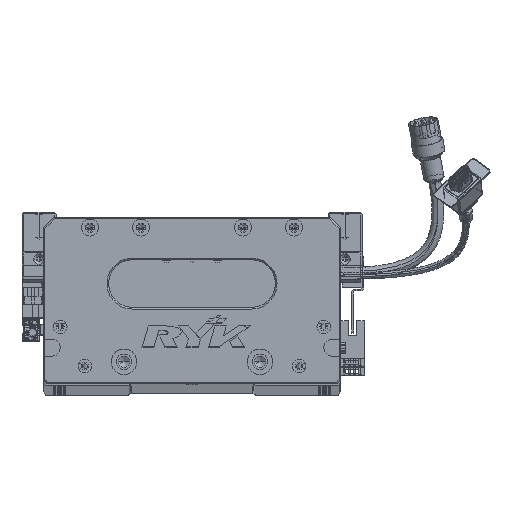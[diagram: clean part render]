
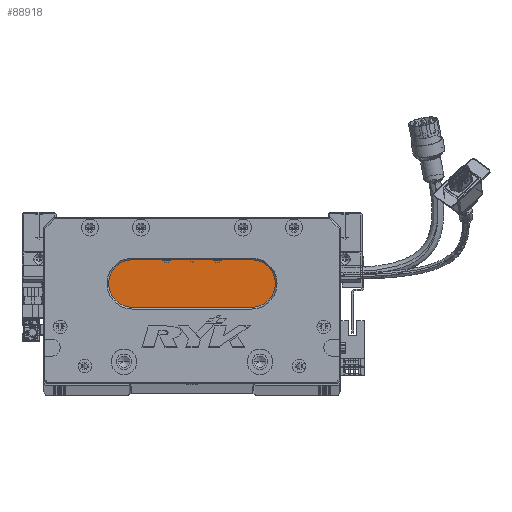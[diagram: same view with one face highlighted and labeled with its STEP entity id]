
A CAD part, top view. The second image highlights one B-rep face of the part: STEP entity #88918.
In plain terms, the highlighted planar face has unit normal (0, 0, 1) as drawn and (0, 0, -1) by its records, which use the part's own axes.
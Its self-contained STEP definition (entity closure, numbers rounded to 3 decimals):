
#2054 = LINE ( 'NONE', #21584, #115854 ) ;
#5575 = CARTESIAN_POINT ( 'NONE',  ( 122.5, 59., 18. ) ) ;
#6068 = PLANE ( 'NONE',  #24456 ) ;
#6151 = DIRECTION ( 'NONE',  ( -1., 0., 0. ) ) ;
#10908 = VERTEX_POINT ( 'NONE', #92158 ) ;
#16124 = DIRECTION ( 'NONE',  ( 0., 0., -1. ) ) ;
#16901 = EDGE_CURVE ( 'NONE', #10908, #135772, #2054, .T. ) ;
#17025 = EDGE_CURVE ( 'NONE', #135772, #79524, #79412, .T. ) ;
#21584 = CARTESIAN_POINT ( 'NONE',  ( 122.5, 45., 18. ) ) ;
#23618 = CARTESIAN_POINT ( 'NONE',  ( 122.5, 73., 18. ) ) ;
#24217 = EDGE_CURVE ( 'NONE', #79524, #92881, #113940, .T. ) ;
#24456 = AXIS2_PLACEMENT_3D ( 'NONE', #5575, #16124, #81173 ) ;
#26074 = LINE ( 'NONE', #23618, #103629 ) ;
#31982 = AXIS2_PLACEMENT_3D ( 'NONE', #81744, #48016, #6151 ) ;
#33850 = CARTESIAN_POINT ( 'NONE',  ( 122.5, 73., 18. ) ) ;
#48016 = DIRECTION ( 'NONE',  ( 0., 0., -1. ) ) ;
#55325 = CARTESIAN_POINT ( 'NONE',  ( 52.5, 59., 18. ) ) ;
#57691 = DIRECTION ( 'NONE',  ( -1., 0., 0. ) ) ;
#63066 = EDGE_LOOP ( 'NONE', ( #76934, #96353, #111626, #128895, #98558 ) ) ;
#66394 = DIRECTION ( 'NONE',  ( 0., 0., -1. ) ) ;
#67349 = DIRECTION ( 'NONE',  ( -1., 0., 0. ) ) ;
#67499 = DIRECTION ( 'NONE',  ( 1., 0., 0. ) ) ;
#72319 = FACE_OUTER_BOUND ( 'NONE', #63066, .T. ) ;
#73475 = EDGE_CURVE ( 'NONE', #92881, #131047, #26074, .T. ) ;
#76599 = CARTESIAN_POINT ( 'NONE',  ( 52.5, 45., 18. ) ) ;
#76934 = ORIENTED_EDGE ( 'NONE', *, *, #97488, .T. ) ;
#79412 = CIRCLE ( 'NONE', #125029, 14. ) ;
#79524 = VERTEX_POINT ( 'NONE', #128402 ) ;
#81173 = DIRECTION ( 'NONE',  ( -1., 0., 0. ) ) ;
#81744 = CARTESIAN_POINT ( 'NONE',  ( 122.5, 59., 18. ) ) ;
#84305 = CIRCLE ( 'NONE', #31982, 14. ) ;
#88918 = ADVANCED_FACE ( 'NONE', ( #72319 ), #6068, .T. ) ;
#92158 = CARTESIAN_POINT ( 'NONE',  ( 122.5, 45., 18. ) ) ;
#92881 = VERTEX_POINT ( 'NONE', #118989 ) ;
#95204 = AXIS2_PLACEMENT_3D ( 'NONE', #136298, #123797, #134904 ) ;
#96353 = ORIENTED_EDGE ( 'NONE', *, *, #16901, .T. ) ;
#97488 = EDGE_CURVE ( 'NONE', #131047, #10908, #84305, .T. ) ;
#98558 = ORIENTED_EDGE ( 'NONE', *, *, #73475, .T. ) ;
#103629 = VECTOR ( 'NONE', #67499, 1000. ) ;
#111626 = ORIENTED_EDGE ( 'NONE', *, *, #17025, .T. ) ;
#113940 = CIRCLE ( 'NONE', #95204, 14. ) ;
#115854 = VECTOR ( 'NONE', #67349, 1000. ) ;
#118989 = CARTESIAN_POINT ( 'NONE',  ( 52.5, 73., 18. ) ) ;
#123797 = DIRECTION ( 'NONE',  ( 0., 0., -1. ) ) ;
#125029 = AXIS2_PLACEMENT_3D ( 'NONE', #55325, #66394, #57691 ) ;
#128402 = CARTESIAN_POINT ( 'NONE',  ( 38.5, 59., 18. ) ) ;
#128895 = ORIENTED_EDGE ( 'NONE', *, *, #24217, .T. ) ;
#131047 = VERTEX_POINT ( 'NONE', #33850 ) ;
#134904 = DIRECTION ( 'NONE',  ( -1., 0., 0. ) ) ;
#135772 = VERTEX_POINT ( 'NONE', #76599 ) ;
#136298 = CARTESIAN_POINT ( 'NONE',  ( 52.5, 59., 18. ) ) ;
